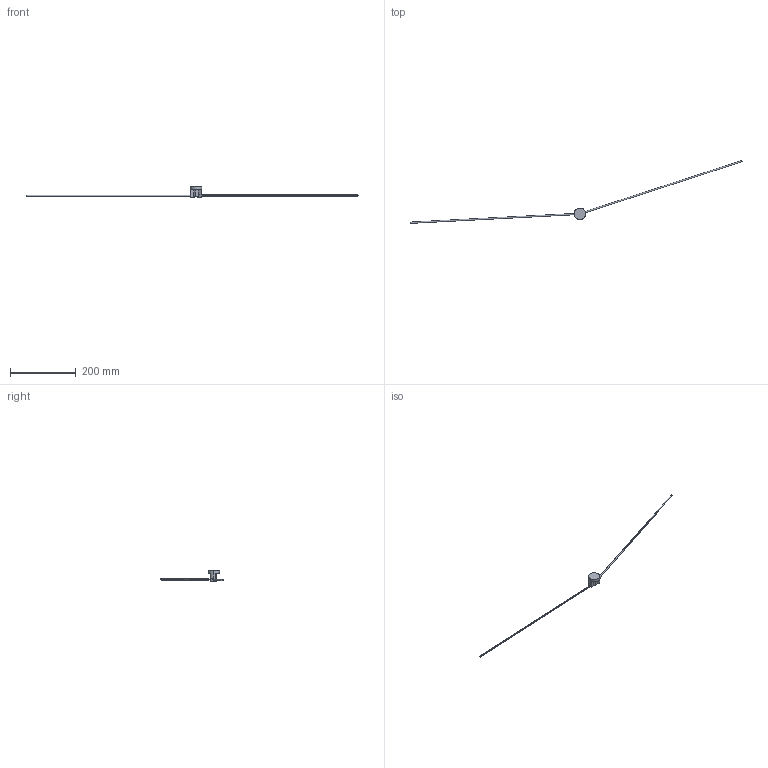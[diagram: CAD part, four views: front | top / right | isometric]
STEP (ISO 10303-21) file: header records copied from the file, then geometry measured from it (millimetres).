
FILE_DESCRIPTION (( 'STEP AP203' ), '1' );
FILE_NAME ('FU-3PRNA.STEP', '2016-06-21T01:07:43', ( '' ), ( '' ), 'SwSTEP 2.0', 'SolidWorks 2014', '' );
FILE_SCHEMA (( 'CONFIG_CONTROL_DESIGN' ));
Length unit declared in the file: metre
Products named in the file (1): FU-3PRNA
Bounding box: 1009.69 x 190.9 x 30.7 mm (x, y, z)
Volume: 29224.5 mm3; surface area: 18137.3 mm2
Topology: 3 solids, 3 shells, 36 faces, 81 edges, 54 vertices
Faces by surface type: plane 19, cylinder 17
Entity records: 1100 total; most frequent: DIRECTION 197, CARTESIAN_POINT 172, ORIENTED_EDGE 162, EDGE_CURVE 81, AXIS2_PLACEMENT_3D 79, VERTEX_POINT 54, CIRCLE 42, VECTOR 39
